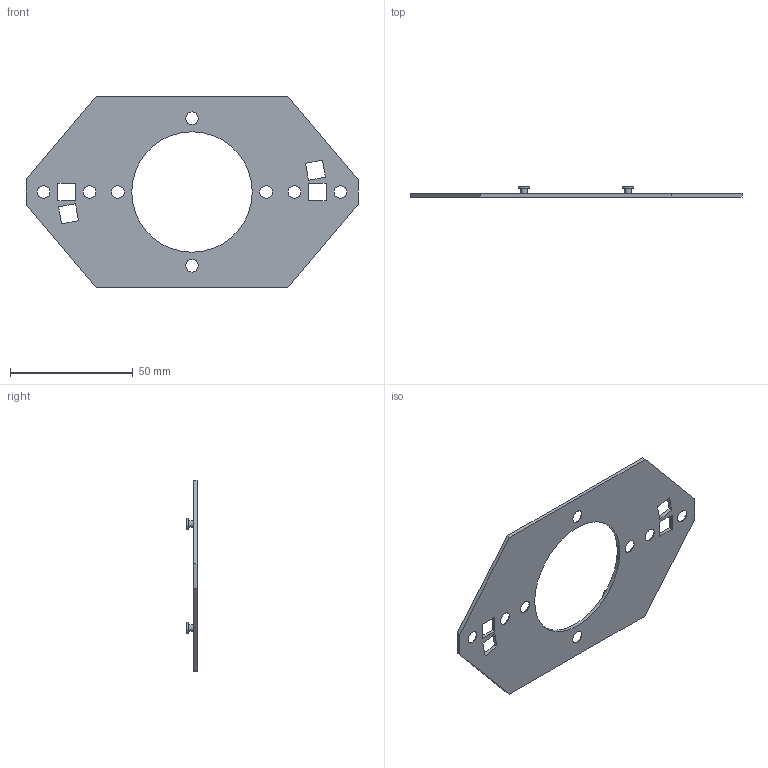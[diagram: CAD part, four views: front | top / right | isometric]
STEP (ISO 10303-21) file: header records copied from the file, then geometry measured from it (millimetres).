
FILE_DESCRIPTION(/* description */ ('STEP AP242','CAx-IF Rec.Pracs.---Representation and Presentation of Product Manufacturing Information (PMI)---4.0---2014-10-13','CAx-IF Rec.Pracs.---3D Tessellated Geometry---0.4---2014-09-14','2;1'),/* implementation_level */ '2;1');
FILE_NAME(/* name */ '6634d9e07859092b1b9c1d4a',/* time_stamp */ '2024-05-03T12:34:41Z',/* author */ (''),/* organization */ (''),/* preprocessor_version */ 'ST-DEVELOPER v20',/* originating_system */ ' ',/* authorisation */ ' ');
FILE_SCHEMA (('AP242_MANAGED_MODEL_BASED_3D_ENGINEERING_MIM_LF { 1 0 10303 442 1 1 4 }'));
Length unit declared in the file: metre
Products named in the file (1): UMP 5
Bounding box: 135 x 4.25 x 78 mm (x, y, z)
Volume: 9434.8 mm3; surface area: 13919 mm2
Topology: 1 solids, 1 shells, 51 faces, 123 edges, 82 vertices
Faces by surface type: plane 34, cylinder 9, cone 8
Full cylindrical faces by diameter (mm): 2.5 x4, 4.5 x4, 49 x1
Entity records: 1593 total; most frequent: DIRECTION 244, CARTESIAN_POINT 240, ORIENTED_EDGE 212, EDGE_CURVE 106, EDGE_LOOP 102, FACE_BOUND 102, AXIS2_PLACEMENT_3D 86, VERTEX_POINT 82
